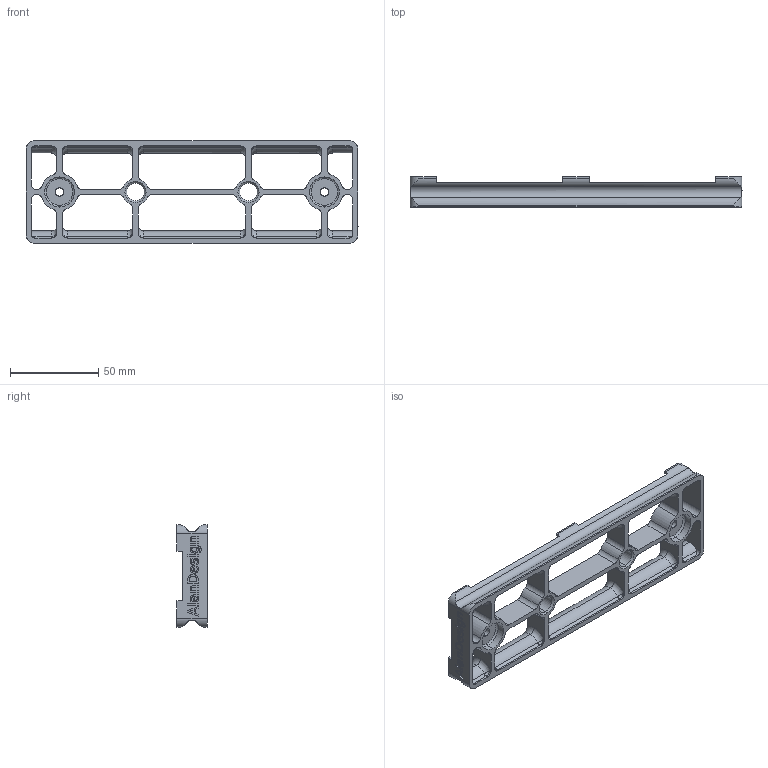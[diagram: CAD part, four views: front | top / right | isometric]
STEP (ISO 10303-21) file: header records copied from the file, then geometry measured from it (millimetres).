
FILE_DESCRIPTION (( 'STEP AP214' ), '1' );
FILE_NAME ('迖攫菁釱V1.2.STEP', '2022-12-03T11:11:43', ( '' ), ( '' ), 'SwSTEP 2.0', 'SolidWorks 2020', '' );
FILE_SCHEMA (( 'AUTOMOTIVE_DESIGN' ));
Length unit declared in the file: millimetre
Products named in the file (1): 迖攫菁釱V1.2
Bounding box: 188 x 17 x 58 mm (x, y, z)
Volume: 42871.5 mm3; surface area: 31808.7 mm2
Topology: 1 solids, 1 shells, 525 faces, 1429 edges, 922 vertices
Faces by surface type: plane 279, cylinder 128, bspline 86, torus 28, cone 4
Entity records: 22091 total; most frequent: CARTESIAN_POINT 9299, ORIENTED_EDGE 2826, DIRECTION 2349, EDGE_CURVE 1413, VECTOR 929, LINE 929, VERTEX_POINT 922, AXIS2_PLACEMENT_3D 710
